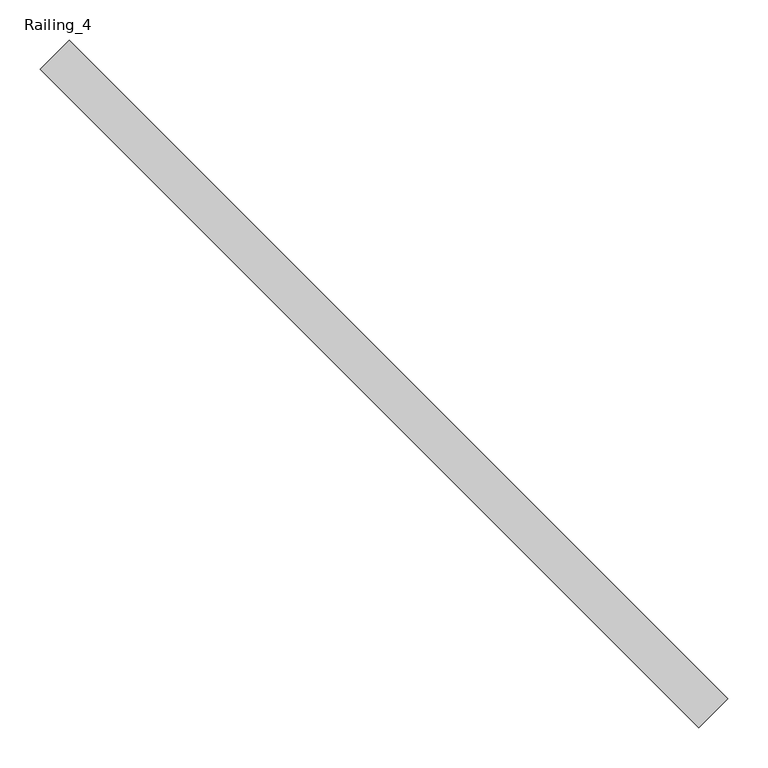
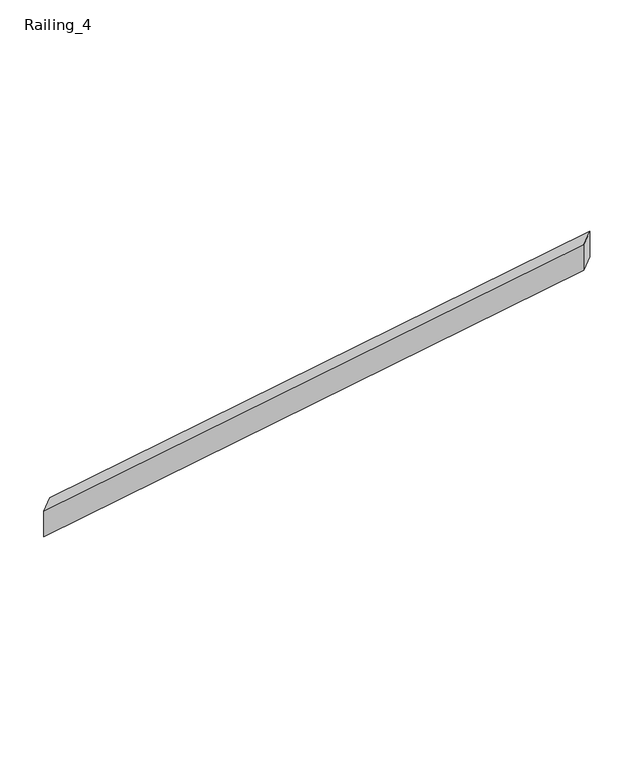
"""IFC4 building model written with IfcOpenShell, lengths in millimetres: railing geometry, Railing_4."""

from ifc_helpers import new_model, si_unit, frame, origin, place, context, project, spatial, polyline, outline, extrude, source, transform, mapped, element, save


def railing_4_8abb609a(model_context):
    return source(origin(), model_context, "Body", "SweptSolid", [
        extrude(outline(polyline([(38.7773843, -50.8), (0.0, 0.0), (1455.9589217, 0.0), (1494.736306, -50.8), (38.7773843, -50.8)])), frame((3310.8368549, 3519.5841696, 895.5073674), z_axis=(0.7071067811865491, 0.7071067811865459, 0.0), x_axis=(0.5620675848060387, -0.5620675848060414, 0.6067619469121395)), (0.0, 0.0, 1.0), 50.8),
    ])


if __name__ == "__main__":
    model = new_model("IFC4")
    model_context = context("Model", 3, world=origin())
    ifc_project = project(units=[si_unit("LENGTHUNIT", "METRE", prefix="MILLI")], contexts=[model_context])
    site = spatial("IfcSite", under=ifc_project)
    building = spatial("IfcBuilding", under=site)
    placement = place(None, origin())
    railing_4_shape = railing_4_8abb609a(model_context)
    element("IfcRailing", 1, ObjectType="Railing_4", at=placement, inside=building, context=model_context, shape_type="MappedRepresentation", body=[
        mapped(railing_4_shape, transform((0.0, 0.0, 0.0), x_axis=(1.0, 0.0, 0.0), y_axis=(0.0, 1.0, 0.0), z_axis=(0.0, 0.0, 1.0))),
    ])
    save(model, "model.ifc")
